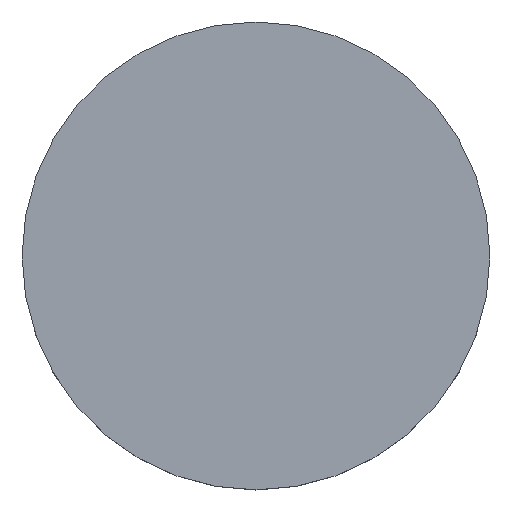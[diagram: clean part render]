
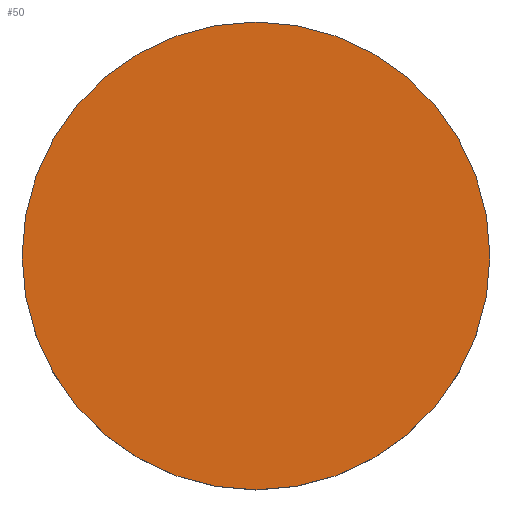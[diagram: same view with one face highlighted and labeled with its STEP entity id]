
A CAD part, top view. The second image highlights one B-rep face of the part: STEP entity #50.
In plain terms, the highlighted planar face has unit normal (0, 0, 1).
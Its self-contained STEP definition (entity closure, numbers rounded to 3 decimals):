
#21 = EDGE_CURVE('',#22,#22,#24,.T.);
#22 = VERTEX_POINT('',#23);
#23 = CARTESIAN_POINT('',(-18.,-8.,9.5));
#24 = CIRCLE('',#25,10.);
#25 = AXIS2_PLACEMENT_3D('',#26,#27,#28);
#26 = CARTESIAN_POINT('',(-28.,-8.,9.5));
#27 = DIRECTION('',(0.,0.,1.));
#28 = DIRECTION('',(1.,0.,0.));
#50 = ADVANCED_FACE('',(#51),#54,.T.);
#51 = FACE_BOUND('',#52,.T.);
#52 = EDGE_LOOP('',(#53));
#53 = ORIENTED_EDGE('',*,*,#21,.T.);
#54 = PLANE('',#55);
#55 = AXIS2_PLACEMENT_3D('',#56,#57,#58);
#56 = CARTESIAN_POINT('',(-28.,-8.,9.5));
#57 = DIRECTION('',(0.,0.,1.));
#58 = DIRECTION('',(1.,0.,0.));
